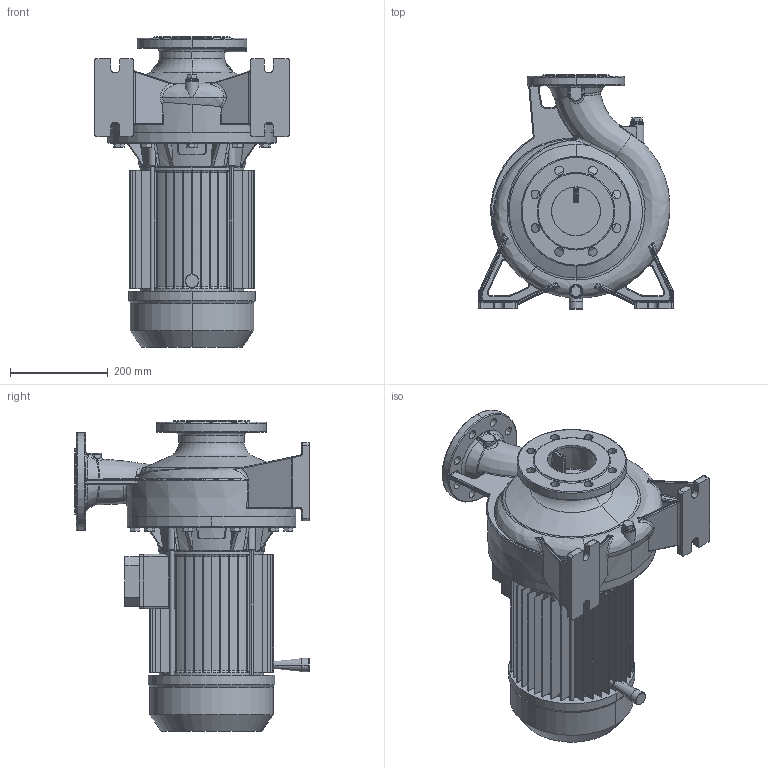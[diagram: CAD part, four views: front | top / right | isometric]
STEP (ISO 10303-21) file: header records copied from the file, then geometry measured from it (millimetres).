
FILE_DESCRIPTION((''),'2;1');
FILE_NAME('3M4_80-250_5_5_IE2_ASM','2012-03-14T',('Rosa'),('"Ebara Pumps Europe +39.444.706811"'),'PRO/ENGINEER BY PARAMETRIC TECHNOLOGY CORPORATION, 2009360','PRO/ENGINEER BY PARAMETRIC TECHNOLOGY CORPORATION, 2009360','');
FILE_SCHEMA(('AUTOMOTIVE_DESIGN { 1 0 10303 214 1 1 1 1 }'));
Length unit declared in the file: millimetre
Products named in the file (5): CORPO_POMPA_80-250; SUPPORTO_3M_266_132; MEC_132X170_190_IE2; 72183; 3M4_80-250_5_5_IE2_ASM
Assembly tree (4 placements, depth 2):
  3M4_80-250_5_5_IE2_ASM
    CORPO_POMPA_80-250
    SUPPORTO_3M_266_132
    MEC_132X170_190_IE2
    72183
Bounding box: 400 x 480 x 637 mm (x, y, z)
Volume: 23081860 mm3; surface area: 1956461.3 mm2
Topology: 4 solids, 4 shells, 1313 faces, 3177 edges, 1905 vertices
Faces by surface type: plane 490, cylinder 323, bspline 249, torus 118, cone 103, sphere 30
Entity records: 60529 total; most frequent: CARTESIAN_POINT 20957, ORIENTED_EDGE 6354, DIRECTION 5647, EDGE_CURVE 3177, PRESENTATION_STYLE_ASSIGNMENT 3166, STYLED_ITEM 3166, CURVE_STYLE 3163, AXIS2_PLACEMENT_3D 2202
